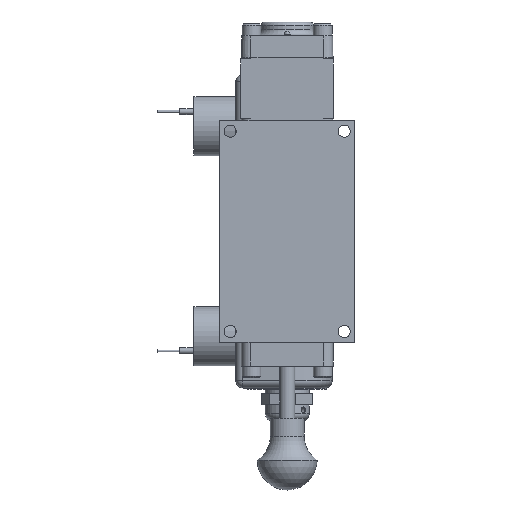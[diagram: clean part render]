
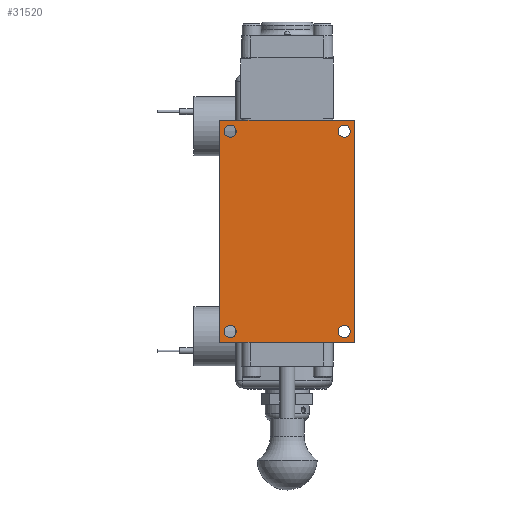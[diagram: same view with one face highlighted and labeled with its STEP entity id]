
A CAD part, front view. The second image highlights one B-rep face of the part: STEP entity #31520.
In plain terms, the highlighted planar face has unit normal (0, -1, 0).
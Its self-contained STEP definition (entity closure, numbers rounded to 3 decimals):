
#546=FACE_BOUND('',#10588,.T.);
#547=FACE_BOUND('',#10589,.T.);
#548=FACE_BOUND('',#10590,.T.);
#549=FACE_BOUND('',#10591,.T.);
#1793=LINE('',#49089,#4054);
#1863=LINE('',#49312,#4124);
#1864=LINE('',#49314,#4125);
#1865=LINE('',#49315,#4126);
#4054=VECTOR('',#37633,1.);
#4124=VECTOR('',#37809,1.);
#4125=VECTOR('',#37810,1.);
#4126=VECTOR('',#37811,1.);
#8664=FACE_OUTER_BOUND('',#10587,.T.);
#10587=EDGE_LOOP('',(#22609,#22610,#22611,#22612));
#10588=EDGE_LOOP('',(#22613));
#10589=EDGE_LOOP('',(#22614));
#10590=EDGE_LOOP('',(#22615));
#10591=EDGE_LOOP('',(#22616));
#12714=CIRCLE('',#33713,0.258);
#12715=CIRCLE('',#33714,0.258);
#12716=CIRCLE('',#33715,0.258);
#12717=CIRCLE('',#33716,0.258);
#14321=VERTEX_POINT('',#49086);
#14322=VERTEX_POINT('',#49088);
#14384=VERTEX_POINT('',#49311);
#14385=VERTEX_POINT('',#49313);
#14386=VERTEX_POINT('',#49316);
#14387=VERTEX_POINT('',#49318);
#14388=VERTEX_POINT('',#49320);
#14389=VERTEX_POINT('',#49322);
#17426=EDGE_CURVE('',#14321,#14322,#1793,.T.);
#17515=EDGE_CURVE('',#14322,#14384,#1863,.T.);
#17516=EDGE_CURVE('',#14385,#14321,#1864,.T.);
#17517=EDGE_CURVE('',#14384,#14385,#1865,.T.);
#17518=EDGE_CURVE('',#14386,#14386,#12714,.T.);
#17519=EDGE_CURVE('',#14387,#14387,#12715,.T.);
#17520=EDGE_CURVE('',#14388,#14388,#12716,.T.);
#17521=EDGE_CURVE('',#14389,#14389,#12717,.T.);
#22609=ORIENTED_EDGE('',*,*,#17515,.F.);
#22610=ORIENTED_EDGE('',*,*,#17426,.F.);
#22611=ORIENTED_EDGE('',*,*,#17516,.F.);
#22612=ORIENTED_EDGE('',*,*,#17517,.F.);
#22613=ORIENTED_EDGE('',*,*,#17518,.T.);
#22614=ORIENTED_EDGE('',*,*,#17519,.T.);
#22615=ORIENTED_EDGE('',*,*,#17520,.T.);
#22616=ORIENTED_EDGE('',*,*,#17521,.T.);
#30546=PLANE('',#33712);
#31520=ADVANCED_FACE('',(#8664,#546,#547,#548,#549),#30546,.F.);
#33712=AXIS2_PLACEMENT_3D('',#49310,#37807,#37808);
#33713=AXIS2_PLACEMENT_3D('',#49317,#37812,#37813);
#33714=AXIS2_PLACEMENT_3D('',#49319,#37814,#37815);
#33715=AXIS2_PLACEMENT_3D('',#49321,#37816,#37817);
#33716=AXIS2_PLACEMENT_3D('',#49323,#37818,#37819);
#37633=DIRECTION('',(-1.,0.,0.));
#37807=DIRECTION('center_axis',(0.,1.,0.));
#37808=DIRECTION('ref_axis',(0.,0.,1.));
#37809=DIRECTION('',(0.,0.,1.));
#37810=DIRECTION('',(0.,0.,-1.));
#37811=DIRECTION('',(1.,0.,0.));
#37812=DIRECTION('center_axis',(0.,1.,0.));
#37813=DIRECTION('ref_axis',(-1.,0.,0.));
#37814=DIRECTION('center_axis',(0.,1.,0.));
#37815=DIRECTION('ref_axis',(-1.,0.,0.));
#37816=DIRECTION('center_axis',(0.,1.,0.));
#37817=DIRECTION('ref_axis',(-1.,0.,0.));
#37818=DIRECTION('center_axis',(0.,1.,0.));
#37819=DIRECTION('ref_axis',(-1.,0.,0.));
#49086=CARTESIAN_POINT('',(2.858,-1.636,-4.71));
#49088=CARTESIAN_POINT('',(-2.858,-1.636,-4.71));
#49089=CARTESIAN_POINT('',(2.858,-1.636,-4.71));
#49310=CARTESIAN_POINT('Origin',(0.,-1.636,0.));
#49311=CARTESIAN_POINT('',(-2.858,-1.636,4.71));
#49312=CARTESIAN_POINT('',(-2.858,-1.636,-4.71));
#49313=CARTESIAN_POINT('',(2.858,-1.636,4.71));
#49314=CARTESIAN_POINT('',(2.858,-1.636,4.71));
#49315=CARTESIAN_POINT('',(-2.858,-1.636,4.71));
#49316=CARTESIAN_POINT('',(-2.163,-1.636,-4.247));
#49317=CARTESIAN_POINT('Origin',(-2.421,-1.636,-4.247));
#49318=CARTESIAN_POINT('',(-2.163,-1.636,4.247));
#49319=CARTESIAN_POINT('Origin',(-2.421,-1.636,4.247));
#49320=CARTESIAN_POINT('',(2.678,-1.636,-4.247));
#49321=CARTESIAN_POINT('Origin',(2.421,-1.636,-4.247));
#49322=CARTESIAN_POINT('',(2.678,-1.636,4.247));
#49323=CARTESIAN_POINT('Origin',(2.421,-1.636,4.247));
